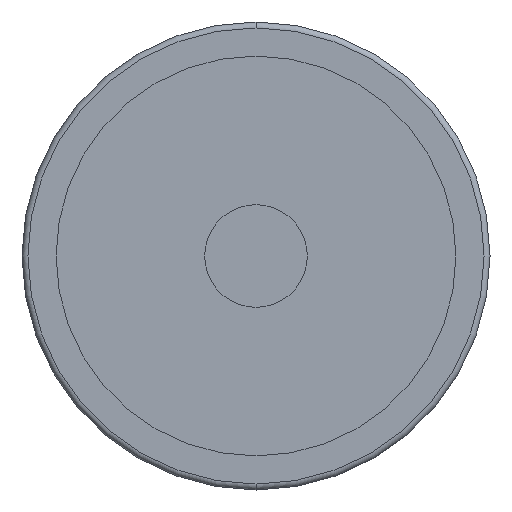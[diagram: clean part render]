
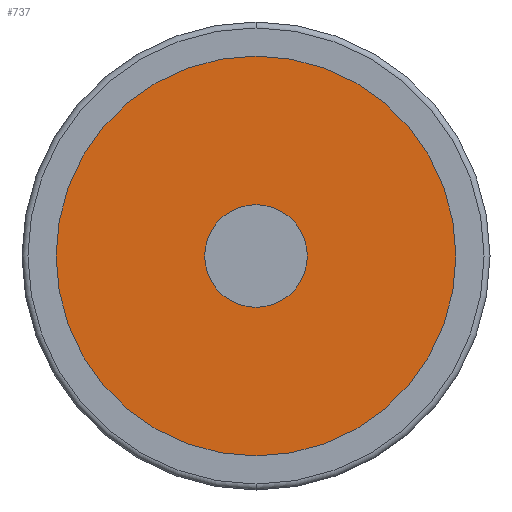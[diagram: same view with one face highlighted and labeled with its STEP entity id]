
A CAD part, front view. The second image highlights one B-rep face of the part: STEP entity #737.
In plain terms, the highlighted planar face has unit normal (0, -1, 0).
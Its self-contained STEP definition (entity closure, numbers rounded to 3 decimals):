
#178 = DIRECTION ( 'NONE',  ( 1., 0., 0. ) ) ;
#231 = CIRCLE ( 'NONE', #1422, 8. ) ;
#306 = VERTEX_POINT ( 'NONE', #1509 ) ;
#348 = CARTESIAN_POINT ( 'NONE',  ( 34.25, 4.5, 0. ) ) ;
#398 = CARTESIAN_POINT ( 'NONE',  ( 0., 4.5, 0. ) ) ;
#469 = EDGE_CURVE ( 'NONE', #2334, #306, #231, .T. ) ;
#737 = ADVANCED_FACE ( 'NONE', ( #1091, #845 ), #2404, .T. ) ;
#814 = EDGE_LOOP ( 'NONE', ( #3134, #1672 ) ) ;
#817 = AXIS2_PLACEMENT_3D ( 'NONE', #1862, #2818, #2584 ) ;
#845 = FACE_BOUND ( 'NONE', #987, .T. ) ;
#859 = DIRECTION ( 'NONE',  ( 1., 0., 0. ) ) ;
#908 = AXIS2_PLACEMENT_3D ( 'NONE', #2593, #2341, #1592 ) ;
#987 = EDGE_LOOP ( 'NONE', ( #3151, #1625 ) ) ;
#1091 = FACE_OUTER_BOUND ( 'NONE', #814, .T. ) ;
#1182 = EDGE_CURVE ( 'NONE', #2538, #2062, #1207, .T. ) ;
#1207 = CIRCLE ( 'NONE', #1909, 34.25 ) ;
#1383 = AXIS2_PLACEMENT_3D ( 'NONE', #1954, #2940, #2907 ) ;
#1422 = AXIS2_PLACEMENT_3D ( 'NONE', #398, #2653, #178 ) ;
#1509 = CARTESIAN_POINT ( 'NONE',  ( 8., 4.5, 0. ) ) ;
#1592 = DIRECTION ( 'NONE',  ( 1., 0., 0. ) ) ;
#1625 = ORIENTED_EDGE ( 'NONE', *, *, #469, .F. ) ;
#1672 = ORIENTED_EDGE ( 'NONE', *, *, #1699, .T. ) ;
#1699 = EDGE_CURVE ( 'NONE', #2062, #2538, #2955, .T. ) ;
#1846 = EDGE_CURVE ( 'NONE', #306, #2334, #3065, .T. ) ;
#1862 = CARTESIAN_POINT ( 'NONE',  ( 0., 4.5, 0. ) ) ;
#1909 = AXIS2_PLACEMENT_3D ( 'NONE', #3088, #2305, #859 ) ;
#1954 = CARTESIAN_POINT ( 'NONE',  ( 0., 4.5, 0. ) ) ;
#2062 = VERTEX_POINT ( 'NONE', #348 ) ;
#2305 = DIRECTION ( 'NONE',  ( 0., -1., 0. ) ) ;
#2334 = VERTEX_POINT ( 'NONE', #2644 ) ;
#2341 = DIRECTION ( 'NONE',  ( 0., -1., 0. ) ) ;
#2404 = PLANE ( 'NONE',  #908 ) ;
#2534 = CARTESIAN_POINT ( 'NONE',  ( -34.25, 4.5, 0. ) ) ;
#2538 = VERTEX_POINT ( 'NONE', #2534 ) ;
#2584 = DIRECTION ( 'NONE',  ( 1., 0., 0. ) ) ;
#2593 = CARTESIAN_POINT ( 'NONE',  ( -34.25, 4.5, 0. ) ) ;
#2644 = CARTESIAN_POINT ( 'NONE',  ( -8., 4.5, 0. ) ) ;
#2653 = DIRECTION ( 'NONE',  ( 0., -1., 0. ) ) ;
#2818 = DIRECTION ( 'NONE',  ( 0., -1., 0. ) ) ;
#2907 = DIRECTION ( 'NONE',  ( 1., 0., 0. ) ) ;
#2940 = DIRECTION ( 'NONE',  ( 0., -1., 0. ) ) ;
#2955 = CIRCLE ( 'NONE', #817, 34.25 ) ;
#3065 = CIRCLE ( 'NONE', #1383, 8. ) ;
#3088 = CARTESIAN_POINT ( 'NONE',  ( 0., 4.5, 0. ) ) ;
#3134 = ORIENTED_EDGE ( 'NONE', *, *, #1182, .T. ) ;
#3151 = ORIENTED_EDGE ( 'NONE', *, *, #1846, .F. ) ;
